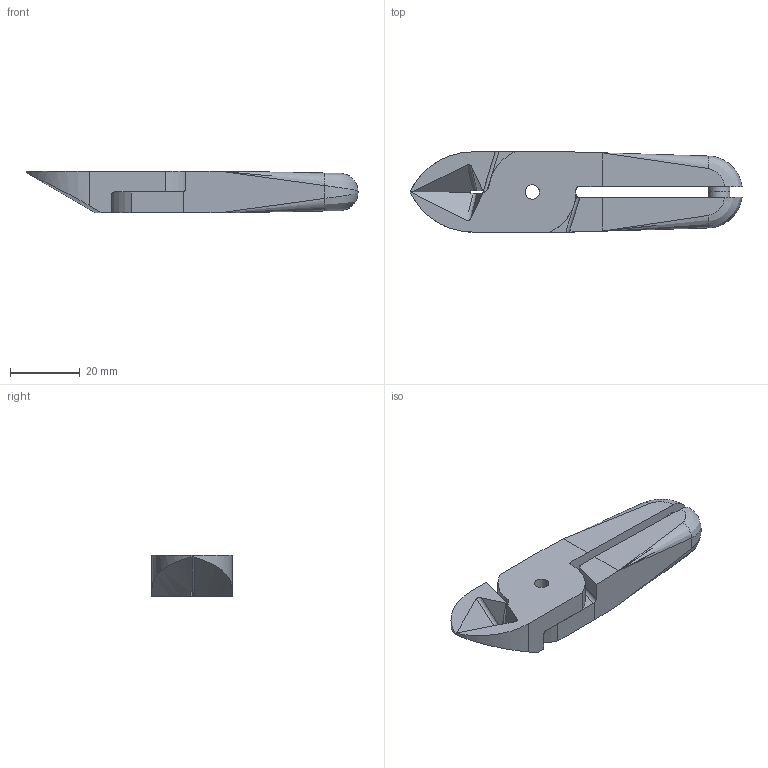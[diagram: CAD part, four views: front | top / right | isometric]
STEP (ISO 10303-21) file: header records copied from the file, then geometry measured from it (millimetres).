
FILE_DESCRIPTION (( 'STEP AP214' ), '1' );
FILE_NAME ('N20AS.STEP', '2019-11-29T02:18:44', ( '微软用户' ), ( '微软中国' ), 'SwSTEP 2.0', 'SolidWorks 2016', '' );
FILE_SCHEMA (( 'AUTOMOTIVE_DESIGN' ));
Length unit declared in the file: millimetre
Products named in the file (1): N20AS
Bounding box: 95 x 23 x 12 mm (x, y, z)
Surface area: 8409.8 mm2 (no closed solid volume)
Topology: 0 solids, 3 shells, 70 faces, 199 edges, 131 vertices
Faces by surface type: plane 38, cylinder 20, bspline 12
Entity records: 3698 total; most frequent: CARTESIAN_POINT 1650, ORIENTED_EDGE 382, DIRECTION 284, EDGE_CURVE 195, VERTEX_POINT 131, VECTOR 114, LINE 114, AXIS2_PLACEMENT_3D 85
